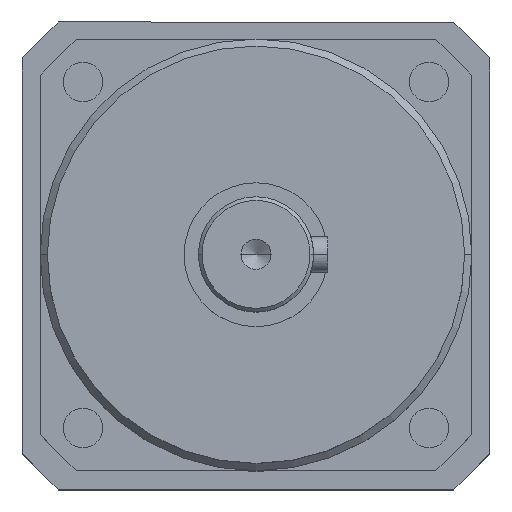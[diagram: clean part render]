
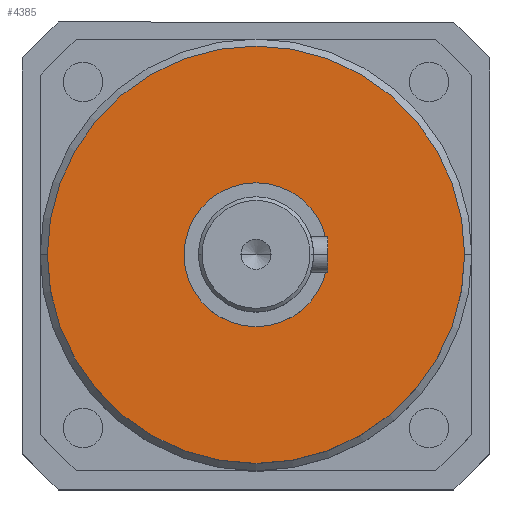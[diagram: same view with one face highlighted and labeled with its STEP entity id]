
A CAD part, top view. The second image highlights one B-rep face of the part: STEP entity #4385.
In plain terms, the highlighted planar face has unit normal (0, 0, 1).
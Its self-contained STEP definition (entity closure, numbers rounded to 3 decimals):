
#258 = AXIS2_PLACEMENT_3D ( 'NONE', #30931, #15964, #899 ) ;
#899 = DIRECTION ( 'NONE',  ( -1., 0., 0. ) ) ;
#2257 = FACE_BOUND ( 'NONE', #12932, .T. ) ;
#2275 = EDGE_CURVE ( 'NONE', #10780, #29077, #13508, .T. ) ;
#3348 = AXIS2_PLACEMENT_3D ( 'NONE', #11272, #28806, #13824 ) ;
#3429 = CARTESIAN_POINT ( 'NONE',  ( -29., 0., 5. ) ) ;
#4232 = CIRCLE ( 'NONE', #258, 10. ) ;
#4366 = ORIENTED_EDGE ( 'NONE', *, *, #4482, .T. ) ;
#4385 = ADVANCED_FACE ( 'NONE', ( #2257, #8919 ), #25580, .T. ) ;
#4428 = ORIENTED_EDGE ( 'NONE', *, *, #17672, .T. ) ;
#4482 = EDGE_CURVE ( 'NONE', #8860, #6122, #4232, .T. ) ;
#6122 = VERTEX_POINT ( 'NONE', #19235 ) ;
#8860 = VERTEX_POINT ( 'NONE', #15103 ) ;
#8919 = FACE_OUTER_BOUND ( 'NONE', #25087, .T. ) ;
#9059 = CIRCLE ( 'NONE', #14892, 10. ) ;
#9276 = DIRECTION ( 'NONE',  ( 0., 0., 1. ) ) ;
#9842 = CARTESIAN_POINT ( 'NONE',  ( 0., 0., 5. ) ) ;
#10780 = VERTEX_POINT ( 'NONE', #3429 ) ;
#11272 = CARTESIAN_POINT ( 'NONE',  ( 0., 0., 5. ) ) ;
#12380 = DIRECTION ( 'NONE',  ( -1., 0., 0. ) ) ;
#12932 = EDGE_LOOP ( 'NONE', ( #4366, #4428 ) ) ;
#13508 = CIRCLE ( 'NONE', #3348, 29. ) ;
#13714 = AXIS2_PLACEMENT_3D ( 'NONE', #24307, #9276, #26830 ) ;
#13824 = DIRECTION ( 'NONE',  ( 1., 0., 0. ) ) ;
#14892 = AXIS2_PLACEMENT_3D ( 'NONE', #9842, #27402, #12380 ) ;
#15103 = CARTESIAN_POINT ( 'NONE',  ( -10., 0., 5. ) ) ;
#15699 = ORIENTED_EDGE ( 'NONE', *, *, #24649, .T. ) ;
#15964 = DIRECTION ( 'NONE',  ( 0., 0., -1. ) ) ;
#17672 = EDGE_CURVE ( 'NONE', #6122, #8860, #9059, .T. ) ;
#19235 = CARTESIAN_POINT ( 'NONE',  ( 10., 0., 5. ) ) ;
#19983 = CIRCLE ( 'NONE', #13714, 29. ) ;
#22963 = DIRECTION ( 'NONE',  ( 0., 0., 1. ) ) ;
#23082 = CARTESIAN_POINT ( 'NONE',  ( 0., 0., 5. ) ) ;
#24307 = CARTESIAN_POINT ( 'NONE',  ( 0., 0., 5. ) ) ;
#24417 = AXIS2_PLACEMENT_3D ( 'NONE', #23082, #22963, #28095 ) ;
#24649 = EDGE_CURVE ( 'NONE', #29077, #10780, #19983, .T. ) ;
#25087 = EDGE_LOOP ( 'NONE', ( #15699, #26948 ) ) ;
#25172 = CARTESIAN_POINT ( 'NONE',  ( 29., 0., 5. ) ) ;
#25580 = PLANE ( 'NONE',  #24417 ) ;
#26830 = DIRECTION ( 'NONE',  ( 1., 0., 0. ) ) ;
#26948 = ORIENTED_EDGE ( 'NONE', *, *, #2275, .T. ) ;
#27402 = DIRECTION ( 'NONE',  ( 0., 0., -1. ) ) ;
#28095 = DIRECTION ( 'NONE',  ( 1., 0., 0. ) ) ;
#28806 = DIRECTION ( 'NONE',  ( 0., 0., 1. ) ) ;
#29077 = VERTEX_POINT ( 'NONE', #25172 ) ;
#30931 = CARTESIAN_POINT ( 'NONE',  ( 0., 0., 5. ) ) ;
